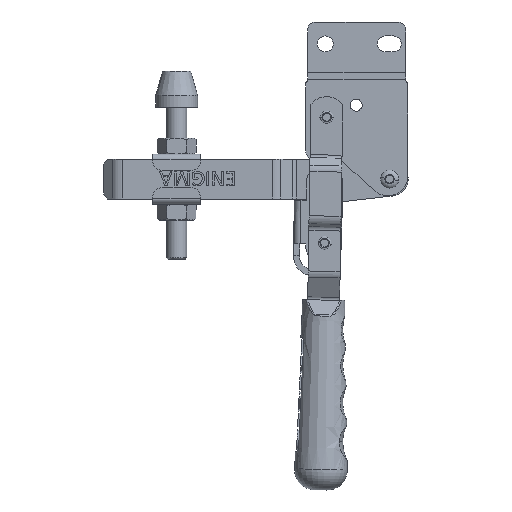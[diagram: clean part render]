
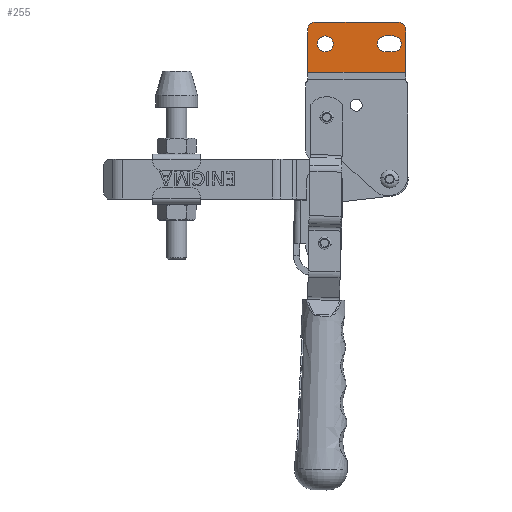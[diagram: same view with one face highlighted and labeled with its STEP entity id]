
A CAD part, front view. The second image highlights one B-rep face of the part: STEP entity #255.
In plain terms, the highlighted planar face has unit normal (0, -1, 0) as drawn and (0, 1, 0) by its records, which use the part's own axes.
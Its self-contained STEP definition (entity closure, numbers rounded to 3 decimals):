
#208 = CIRCLE ( 'NONE', #22889, 4. ) ;
#255 = ADVANCED_FACE ( 'NONE', ( #26367, #24106, #1635 ), #22303, .T. ) ;
#405 = DIRECTION ( 'NONE',  ( 0., 0., -1. ) ) ;
#457 = LINE ( 'NONE', #28214, #10850 ) ;
#530 = EDGE_CURVE ( 'NONE', #12121, #2252, #27998, .T. ) ;
#1459 = CARTESIAN_POINT ( 'NONE',  ( 4.8, 0., 11. ) ) ;
#1461 = EDGE_CURVE ( 'NONE', #2252, #26344, #12465, .T. ) ;
#1527 = CARTESIAN_POINT ( 'NONE',  ( -4., 0., 4. ) ) ;
#1635 = FACE_OUTER_BOUND ( 'NONE', #10920, .T. ) ;
#1752 = EDGE_CURVE ( 'NONE', #12684, #12121, #22876, .T. ) ;
#1815 = VERTEX_POINT ( 'NONE', #25267 ) ;
#2181 = VERTEX_POINT ( 'NONE', #7208 ) ;
#2252 = VERTEX_POINT ( 'NONE', #5553 ) ;
#2354 = LINE ( 'NONE', #16491, #20113 ) ;
#2822 = EDGE_CURVE ( 'NONE', #16694, #12684, #28075, .T. ) ;
#2972 = CARTESIAN_POINT ( 'NONE',  ( 4.8, 0., 15. ) ) ;
#3027 = DIRECTION ( 'NONE',  ( 0., 0., -1. ) ) ;
#3352 = EDGE_CURVE ( 'NONE', #9374, #1815, #16528, .T. ) ;
#3435 = DIRECTION ( 'NONE',  ( 0., 1., 0. ) ) ;
#3947 = CARTESIAN_POINT ( 'NONE',  ( 4.8, 0., 7. ) ) ;
#4338 = CARTESIAN_POINT ( 'NONE',  ( 34.8, 0., 15. ) ) ;
#5292 = EDGE_CURVE ( 'NONE', #26344, #8011, #208, .T. ) ;
#5553 = CARTESIAN_POINT ( 'NONE',  ( -4., 0., 25.144 ) ) ;
#5692 = DIRECTION ( 'NONE',  ( 0., 0., -1. ) ) ;
#5695 = DIRECTION ( 'NONE',  ( 0., 0., -1. ) ) ;
#5726 = DIRECTION ( 'NONE',  ( 0., 0., -1. ) ) ;
#5778 = ORIENTED_EDGE ( 'NONE', *, *, #1461, .F. ) ;
#5941 = EDGE_CURVE ( 'NONE', #1815, #6994, #10941, .T. ) ;
#5971 = DIRECTION ( 'NONE',  ( 0., -1., 0. ) ) ;
#6121 = CARTESIAN_POINT ( 'NONE',  ( 0., 0., 4. ) ) ;
#6709 = DIRECTION ( 'NONE',  ( 0., -1., 0. ) ) ;
#6825 = EDGE_CURVE ( 'NONE', #26479, #10942, #7695, .T. ) ;
#6994 = VERTEX_POINT ( 'NONE', #4338 ) ;
#7208 = CARTESIAN_POINT ( 'NONE',  ( 34.8, 0., 7. ) ) ;
#7389 = EDGE_CURVE ( 'NONE', #6994, #2181, #11172, .T. ) ;
#7479 = ORIENTED_EDGE ( 'NONE', *, *, #6825, .T. ) ;
#7695 = CIRCLE ( 'NONE', #13019, 4. ) ;
#8011 = VERTEX_POINT ( 'NONE', #13252 ) ;
#8605 = AXIS2_PLACEMENT_3D ( 'NONE', #1459, #5971, #15170 ) ;
#9374 = VERTEX_POINT ( 'NONE', #10105 ) ;
#9686 = CARTESIAN_POINT ( 'NONE',  ( 34.8, 0., 15. ) ) ;
#10105 = CARTESIAN_POINT ( 'NONE',  ( 38.8, 0., 7. ) ) ;
#10850 = VECTOR ( 'NONE', #23692, 1000. ) ;
#10920 = EDGE_LOOP ( 'NONE', ( #28743, #23069, #27145, #20631, #5778, #26044 ) ) ;
#10941 = LINE ( 'NONE', #9686, #29126 ) ;
#10942 = VERTEX_POINT ( 'NONE', #3947 ) ;
#11172 = CIRCLE ( 'NONE', #28992, 4. ) ;
#11240 = DIRECTION ( 'NONE',  ( 0., 0., -1. ) ) ;
#12121 = VERTEX_POINT ( 'NONE', #26252 ) ;
#12320 = CARTESIAN_POINT ( 'NONE',  ( 0., 0., 25.144 ) ) ;
#12465 = LINE ( 'NONE', #16374, #15991 ) ;
#12684 = VERTEX_POINT ( 'NONE', #25685 ) ;
#13019 = AXIS2_PLACEMENT_3D ( 'NONE', #21549, #26664, #5695 ) ;
#13108 = EDGE_CURVE ( 'NONE', #2181, #9374, #457, .T. ) ;
#13202 = CARTESIAN_POINT ( 'NONE',  ( 45., 0., 29. ) ) ;
#13252 = CARTESIAN_POINT ( 'NONE',  ( 0., 0., 0. ) ) ;
#14812 = ORIENTED_EDGE ( 'NONE', *, *, #26657, .T. ) ;
#15170 = DIRECTION ( 'NONE',  ( 0., 0., -1. ) ) ;
#15322 = CIRCLE ( 'NONE', #8605, 4. ) ;
#15760 = DIRECTION ( 'NONE',  ( 0., -1., 0. ) ) ;
#15901 = DIRECTION ( 'NONE',  ( 0., 0., 1. ) ) ;
#15991 = VECTOR ( 'NONE', #405, 1000. ) ;
#16230 = DIRECTION ( 'NONE',  ( -1., 0., 0. ) ) ;
#16374 = CARTESIAN_POINT ( 'NONE',  ( -4., 0., 4. ) ) ;
#16491 = CARTESIAN_POINT ( 'NONE',  ( 0., 0., 0. ) ) ;
#16528 = CIRCLE ( 'NONE', #17472, 4. ) ;
#16694 = VERTEX_POINT ( 'NONE', #18056 ) ;
#17472 = AXIS2_PLACEMENT_3D ( 'NONE', #19314, #26258, #5726 ) ;
#18056 = CARTESIAN_POINT ( 'NONE',  ( 41., 0., 0. ) ) ;
#19314 = CARTESIAN_POINT ( 'NONE',  ( 38.8, 0., 11. ) ) ;
#20113 = VECTOR ( 'NONE', #21045, 1000. ) ;
#20584 = CARTESIAN_POINT ( 'NONE',  ( 41., 0., 4. ) ) ;
#20631 = ORIENTED_EDGE ( 'NONE', *, *, #5292, .F. ) ;
#21045 = DIRECTION ( 'NONE',  ( 1., 0., 0. ) ) ;
#21549 = CARTESIAN_POINT ( 'NONE',  ( 4.8, 0., 11. ) ) ;
#21687 = CARTESIAN_POINT ( 'NONE',  ( 0., 0., 64.5 ) ) ;
#22258 = ORIENTED_EDGE ( 'NONE', *, *, #13108, .T. ) ;
#22303 = PLANE ( 'NONE',  #25563 ) ;
#22876 = LINE ( 'NONE', #13202, #29032 ) ;
#22889 = AXIS2_PLACEMENT_3D ( 'NONE', #6121, #15760, #11240 ) ;
#23069 = ORIENTED_EDGE ( 'NONE', *, *, #2822, .F. ) ;
#23157 = DIRECTION ( 'NONE',  ( 0., -1., 0. ) ) ;
#23297 = DIRECTION ( 'NONE',  ( -1., 0., 0. ) ) ;
#23354 = EDGE_LOOP ( 'NONE', ( #26532, #22258, #23759, #27490 ) ) ;
#23692 = DIRECTION ( 'NONE',  ( 1., 0., 0. ) ) ;
#23759 = ORIENTED_EDGE ( 'NONE', *, *, #3352, .T. ) ;
#23891 = EDGE_CURVE ( 'NONE', #8011, #16694, #2354, .T. ) ;
#24106 = FACE_BOUND ( 'NONE', #24948, .T. ) ;
#24948 = EDGE_LOOP ( 'NONE', ( #14812, #7479 ) ) ;
#25089 = VECTOR ( 'NONE', #16230, 1000. ) ;
#25110 = DIRECTION ( 'NONE',  ( 0., 0., 1. ) ) ;
#25267 = CARTESIAN_POINT ( 'NONE',  ( 38.8, 0., 15. ) ) ;
#25563 = AXIS2_PLACEMENT_3D ( 'NONE', #21687, #3435, #5692 ) ;
#25685 = CARTESIAN_POINT ( 'NONE',  ( 45., 0., 4. ) ) ;
#26044 = ORIENTED_EDGE ( 'NONE', *, *, #530, .F. ) ;
#26252 = CARTESIAN_POINT ( 'NONE',  ( 45., 0., 25.144 ) ) ;
#26258 = DIRECTION ( 'NONE',  ( 0., -1., 0. ) ) ;
#26344 = VERTEX_POINT ( 'NONE', #1527 ) ;
#26367 = FACE_BOUND ( 'NONE', #23354, .T. ) ;
#26479 = VERTEX_POINT ( 'NONE', #2972 ) ;
#26532 = ORIENTED_EDGE ( 'NONE', *, *, #7389, .T. ) ;
#26657 = EDGE_CURVE ( 'NONE', #10942, #26479, #15322, .T. ) ;
#26664 = DIRECTION ( 'NONE',  ( 0., -1., 0. ) ) ;
#27145 = ORIENTED_EDGE ( 'NONE', *, *, #23891, .F. ) ;
#27490 = ORIENTED_EDGE ( 'NONE', *, *, #5941, .T. ) ;
#27515 = CARTESIAN_POINT ( 'NONE',  ( 34.8, 0., 11. ) ) ;
#27998 = LINE ( 'NONE', #12320, #25089 ) ;
#28075 = CIRCLE ( 'NONE', #29022, 4. ) ;
#28214 = CARTESIAN_POINT ( 'NONE',  ( 34.8, 0., 7. ) ) ;
#28743 = ORIENTED_EDGE ( 'NONE', *, *, #1752, .F. ) ;
#28992 = AXIS2_PLACEMENT_3D ( 'NONE', #27515, #6709, #3027 ) ;
#29022 = AXIS2_PLACEMENT_3D ( 'NONE', #20584, #23157, #25110 ) ;
#29032 = VECTOR ( 'NONE', #15901, 1000. ) ;
#29126 = VECTOR ( 'NONE', #23297, 1000. ) ;
